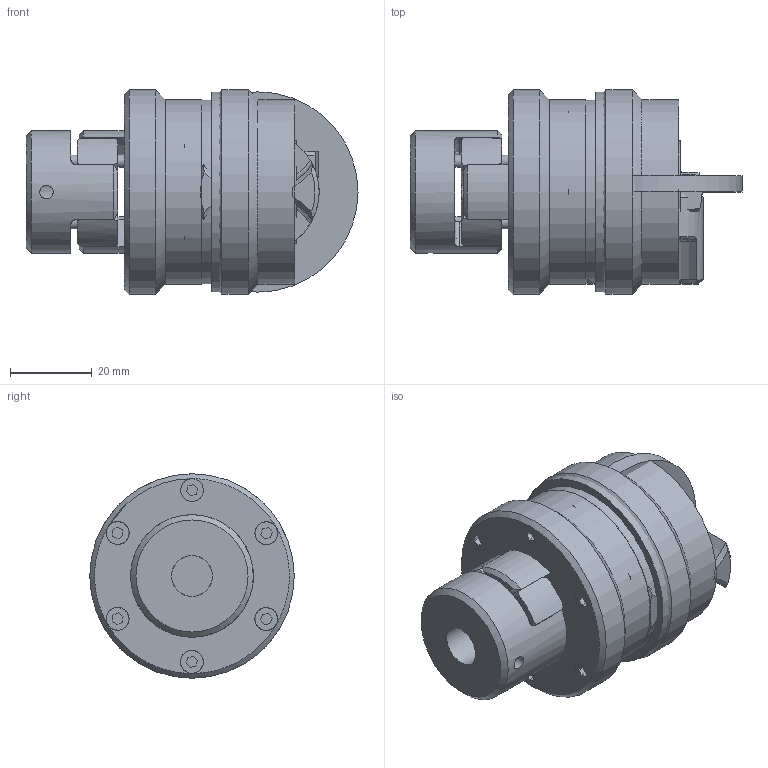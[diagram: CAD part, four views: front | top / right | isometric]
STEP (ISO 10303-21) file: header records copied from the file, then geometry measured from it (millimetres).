
FILE_DESCRIPTION( ( 'Unknown' ), '1' );
FILE_NAME( 'K:/Daten/homepage/cad - homepage/KBK-E-PP/KBK EPP 14.stp', 'Unknown', ( 'Unknown' ), ( 'Unknown' ), 'XStep 1.0', 'Unknown', ' ' );
FILE_SCHEMA( ( 'automotive_design' ) );
Length unit declared in the file: millimetre
Products named in the file (15): Assem1; Assem2; Assem3; ball_bearing_-_61904_0_01; ball_bearing_-_61904_0_02; ball_bearing_-_61904_0_03; Zylinderschraube DIN 912; L-P-10 Grundteil; Stellring 10; Druckring 10; a_20; Flansch L-LL10; Zahnkranz_14_Standard; KBE 1 - 14_Nabe; Elastomerflansch EK 10
Bounding box: 81.2 x 50 x 50 mm (x, y, z)
Volume: 122881.3 mm3; surface area: 78742.7 mm2
Topology: 33 solids, 33 shells, 545 faces, 1222 edges, 775 vertices
Faces by surface type: plane 212, cylinder 204, cone 94, torus 35
Full cylindrical faces by diameter (mm): 2 x4, 2.459 x16, 3 x16, 3.3 x2, 3.4 x12, 5.5 x8, 5.6 x12, 10 x6, 14 x2, 15 x2, 19 x2, 20 x7, 24 x4, 25 x2, 25.6 x6, 29 x2, 29.993 x2, 30 x4, 31.4 x6, 37 x7, 38 x2, 40 x2, 45 x2, 45.2 x2, 49 x2, 50 x2
Entity records: 6472 total; most frequent: CARTESIAN_POINT 1431, DIRECTION 1092, ORIENTED_EDGE 816, AXIS2_PLACEMENT_3D 501, EDGE_CURVE 408, EDGE_LOOP 354, VERTEX_POINT 298, FACE_OUTER_BOUND 291
